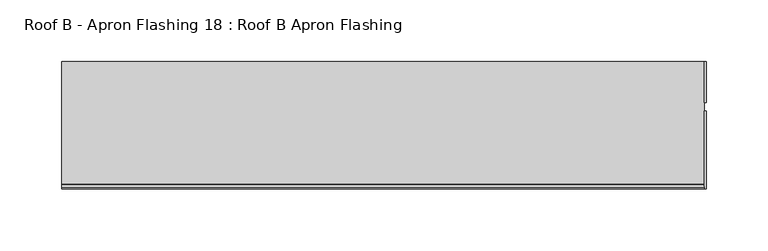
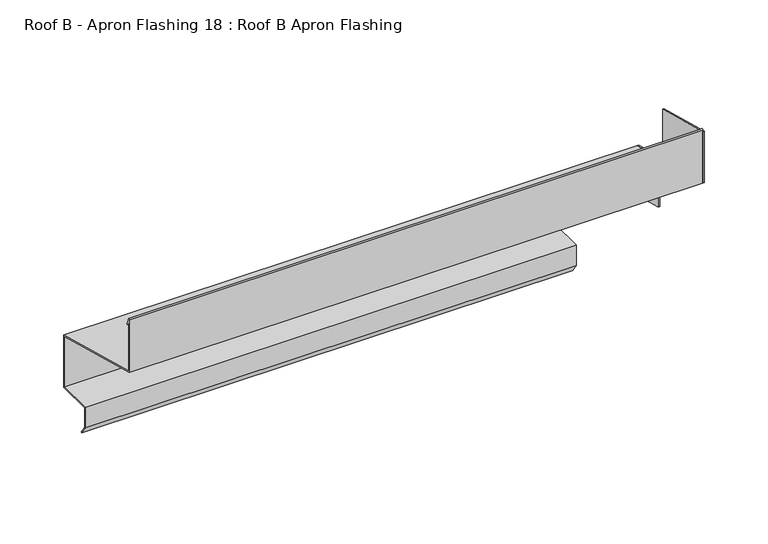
"""IFC4 building model written with IfcOpenShell, lengths in millimetres: proxy geometry, Roof B - Apron Flashing 18 : Roof B Apron Flashing."""

from ifc_helpers import new_model, si_unit, frame, origin, place, context, project, spatial, polyline, circle_curve, outline, extrude, source, transform, mapped, element, save
from ifc_brep_helpers import plane_surface, cylinder_surface, advanced_brep


def roof_b_apron_flashing_18_roof_b_apron_flashing_e1c903fb(model_context):
    return source(origin(), model_context, "Body", "SolidModel", [
        extrude(outline(polyline([(-26537.2645229, -242.0096237), (-26537.2645229, -292.0096237), (-26538.2642284, -292.0096237), (-26538.2642284, -289.5944306), (-26570.1394548, -281.0534894), (-26570.1394548, -233.2008122), (-26537.2645229, -242.0096237)])), frame((12341.4252872, 0.0, 0.0), z_axis=(1.0, 0.0, 0.0), x_axis=(0.0, 1.0, 0.0)), (0.0, 0.0, 1.0), 1.3240587),
        extrude(outline(polyline([(-26577.0535417, -232.3834644), (-26640.1375048, -215.4801674), (-26640.1375048, -166.2122183), (-26577.0535417, -183.1155152), (-26577.0535417, -232.3834644)])), frame((12341.4252872, 0.0, 0.0), z_axis=(1.0, 0.0, 0.0), x_axis=(0.0, 1.0, 0.0)), (0.0, 0.0, 1.0), 1.3240587),
        advanced_brep(
        [(12341.4252872, -26537.2645229, -242.0096237), (12341.4252872, -26639.1375048, -214.7128405), (12341.4252872, -26639.1375048, -166.5489273), (12341.4252872, -26637.3415908, -170.9939705), (12341.4252872, -26636.4144069, -170.6193639), (12341.4252872, -26638.8288618, -164.6433784), (12341.4252872, -26640.1375048, -164.8977528), (12341.4252872, -26640.1375048, -215.4801674), (12341.4252872, -26538.2645229, -242.7769507), (12341.4252872, -26538.2642284, -292.0096237), (12341.4252872, -26537.2645229, -292.0096237), (11822.3947018, -26537.2645229, -242.0096237), (11822.3947018, -26537.2645229, -292.0096237), (11822.3947018, -26569.8678877, -292.0096237), (11822.3947018, -26569.8678877, -310.3959053), (11822.3947018, -26564.656988, -317.8378413), (11822.3947018, -26565.4761401, -318.4114178), (11822.3947018, -26570.8678877, -310.7112041), (11822.3947018, -26570.8678877, -291.0096237), (11822.3947018, -26538.2645229, -291.0096237), (11822.3947018, -26538.2645229, -242.7769507), (11822.3947018, -26640.1375048, -215.4801674), (11822.3947018, -26640.1375048, -164.8977528), (11822.3947018, -26638.8288618, -164.6433784), (11822.3947018, -26636.4144069, -170.6193639), (11822.3947018, -26637.3415908, -170.9939705), (11822.3947018, -26639.1375048, -166.5489273), (11822.3947018, -26639.1375048, -214.7128405), (12266.8825627, -26538.2645229, -291.0096237), (12266.8825627, -26538.2645229, -292.0096237), (12266.8825627, -26570.8678877, -291.0096237), (12266.8825627, -26570.8678877, -310.7112041), (12266.8825627, -26569.8678877, -292.0096237), (12266.8825627, -26569.8678877, -310.3959053), (12266.8825627, -26565.4761401, -318.4114178), (12266.8825627, -26564.656988, -317.8378413)],
        [
            (0, 1),
            (1, 2),
            (2, 3),
            (3, 4, circle_curve(frame((12341.4252872, -26636.8779989, -170.8066672), z_axis=(1.0, 0.0, 0.0), x_axis=(0.0, 0.24192189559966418, 0.9702957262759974)), 0.5)),
            (4, 5),
            (5, 6, circle_curve(frame((12341.4252872, -26639.4584606, -164.8977528), z_axis=(1.0, 0.0, 0.0), x_axis=(0.0, 0.0, 1.0)), 0.6790442)),
            (6, 7),
            (7, 8),
            (8, 9),
            (9, 10),
            (10, 0),
            (11, 12),
            (12, 13),
            (13, 14),
            (14, 15),
            (15, 16),
            (16, 17),
            (17, 18),
            (18, 19),
            (19, 20),
            (20, 21),
            (21, 22),
            (22, 23, circle_curve(frame((11822.3947018, -26639.4584606, -164.8977528), z_axis=(-1.0, 0.0, 0.0), x_axis=(0.0, 0.0, 1.0)), 0.6790442)),
            (23, 24),
            (24, 25, circle_curve(frame((11822.3947018, -26636.8779989, -170.8066672), z_axis=(-1.0, 0.0, 0.0), x_axis=(0.0, 0.24192189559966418, 0.9702957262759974)), 0.5)),
            (25, 26),
            (26, 27),
            (27, 11),
            (0, 11),
            (27, 1),
            (26, 2),
            (25, 3),
            (24, 4),
            (23, 5),
            (22, 6),
            (21, 7),
            (20, 8),
            (19, 28),
            (28, 29),
            (29, 9),
            (18, 30),
            (30, 28),
            (17, 31),
            (31, 30),
            (13, 32),
            (32, 33),
            (33, 14),
            (12, 10),
            (29, 32),
            (16, 34),
            (34, 31),
            (15, 35),
            (35, 34),
            (33, 35),
        ],
        [
            plane_surface(frame((12341.4252872, -26735.6695979, -298.0327356), z_axis=(1.0, 0.0, 0.0), x_axis=(0.0, 1.0, 0.0))),
            plane_surface(frame((11822.3947018, -26735.6695979, -298.0327356), z_axis=(-1.0, 0.0, 0.0), x_axis=(0.0, 1.0, 0.0))),
            plane_surface(frame((12341.4252872, -26537.2645229, -242.0096237), z_axis=(0.0, 0.25881904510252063, 0.9659258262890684), x_axis=(-1.0, 0.0, 0.0))),
            plane_surface(frame((12341.4252872, -26639.1375048, -214.7128405), z_axis=(0.0, 1.0, 0.0), x_axis=(-1.0, 0.0, 0.0))),
            plane_surface(frame((12341.4252872, -26639.1375048, -166.5489273), z_axis=(0.0, -0.9271838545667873, -0.3746065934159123), x_axis=(-1.0, 0.0, 0.0))),
            cylinder_surface(frame((12341.4252872, -26636.8779989, -170.8066672), z_axis=(1.0, 0.0, 0.0), x_axis=(0.0, 0.24192189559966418, 0.9702957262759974)), 0.5),
            plane_surface(frame((12341.4252872, -26636.4144069, -170.6193639), z_axis=(0.0, 0.9271838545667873, 0.3746065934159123), x_axis=(-1.0, 0.0, 0.0))),
            cylinder_surface(frame((12341.4252872, -26639.4584606, -164.8977528), z_axis=(1.0, 0.0, 0.0), x_axis=(0.0, 0.0, 1.0)), 0.6790442),
            plane_surface(frame((12341.4252872, -26640.1375048, -164.8977528), z_axis=(0.0, -1.0, 0.0), x_axis=(-1.0, 0.0, 0.0))),
            plane_surface(frame((12341.4252872, -26640.1375048, -215.4801674), z_axis=(0.0, -0.2588190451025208, -0.9659258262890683), x_axis=(-1.0, 0.0, 0.0))),
            plane_surface(frame((12341.4252872, -26538.2645229, -242.7769507), z_axis=(0.0, -1.0, 0.0), x_axis=(-1.0, 0.0, 0.0))),
            plane_surface(frame((12341.4252872, -26538.2645229, -291.0096237), z_axis=(0.0, 0.0, 1.0), x_axis=(-1.0, 0.0, 0.0))),
            plane_surface(frame((12341.4252872, -26570.8678877, -291.0096237), z_axis=(0.0, -1.0, 0.0), x_axis=(-1.0, 0.0, 0.0))),
            plane_surface(frame((12341.4252872, -26569.8678877, -310.3959053), z_axis=(0.0, 1.0, 0.0), x_axis=(-1.0, 0.0, 0.0))),
            plane_surface(frame((12341.4252872, -26569.8678877, -292.0096237), z_axis=(0.0, 0.0, -1.0), x_axis=(-1.0, 0.0, 0.0))),
            plane_surface(frame((12341.4252872, -26537.2645229, -292.0096237), z_axis=(0.0, 1.0, 0.0), x_axis=(-1.0, 0.0, 0.0))),
            plane_surface(frame((12341.4252872, -26570.8678877, -310.7112041), z_axis=(0.0, -0.8191520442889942, -0.5735764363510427), x_axis=(-1.0, 0.0, 0.0))),
            plane_surface(frame((12341.4252872, -26565.4761401, -318.4114178), z_axis=(0.0, 0.5735764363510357, -0.8191520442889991), x_axis=(-1.0, 0.0, 0.0))),
            plane_surface(frame((12341.4252872, -26564.656988, -317.8378413), z_axis=(0.0, 0.8191520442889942, 0.5735764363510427), x_axis=(-1.0, 0.0, 0.0))),
            plane_surface(frame((12266.8825627, -26209.0679198, -605.2282213), z_axis=(1.0, 0.0, 0.0), x_axis=(0.0, -0.9659258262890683, 0.2588190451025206))),
        ],
        [
            (0, [[1, 2, 3, 4, 5, 6, 7, 8, 9, 10, 11]]),
            (1, [[12, 13, 14, 15, 16, 17, 18, 19, 20, 21, 22, 23, 24, 25, 26, 27, 28]]),
            (2, [[-1, 29, -28, 30]]),
            (3, [[-2, -30, -27, 31]]),
            (4, [[-3, -31, -26, 32]]),
            (5, [[-4, -32, -25, 33]]),
            (6, [[-5, -33, -24, 34]]),
            (7, [[-6, -34, -23, 35]]),
            (8, [[-7, -35, -22, 36]]),
            (9, [[-8, -36, -21, 37]]),
            (10, [[-20, 38, 39, 40, -9, -37]]),
            (11, [[-19, 41, 42, -38]]),
            (12, [[-18, 43, 44, -41]]),
            (13, [[-14, 45, 46, 47]]),
            (14, [[-13, 48, -10, -40, 49, -45]]),
            (15, [[-11, -48, -12, -29]]),
            (16, [[-17, 50, 51, -43]]),
            (17, [[-16, 52, 53, -50]]),
            (18, [[-15, -47, 54, -52]]),
            (19, [[-39, -42, -44, -51, -53, -54, -46, -49]]),
        ],
    ),
    ])


if __name__ == "__main__":
    model = new_model("IFC4")
    model_context = context("Model", 3, world=origin())
    ifc_project = project(units=[si_unit("LENGTHUNIT", "METRE", prefix="MILLI")], contexts=[model_context])
    site = spatial("IfcSite", under=ifc_project)
    building = spatial("IfcBuilding", under=site)
    placement = place(None, origin())
    roof_b_apron_flashing_18_roof_b_apron_flashing_shape = roof_b_apron_flashing_18_roof_b_apron_flashing_e1c903fb(model_context)
    element("IfcBuildingElementProxy", 1, Name="Roof B - Apron Flashing 18 : Roof B Apron Flashing", ObjectType="Roof B - Apron Flashing 18 : Roof B Apron Flashing", at=placement, inside=building, context=model_context, shape_type="MappedRepresentation", body=[
        mapped(roof_b_apron_flashing_18_roof_b_apron_flashing_shape, transform((0.0, 0.0, 0.0), x_axis=(1.0, 0.0, 0.0), y_axis=(0.0, 1.0, 0.0), z_axis=(0.0, 0.0, 1.0))),
    ])
    save(model, "model.ifc")
